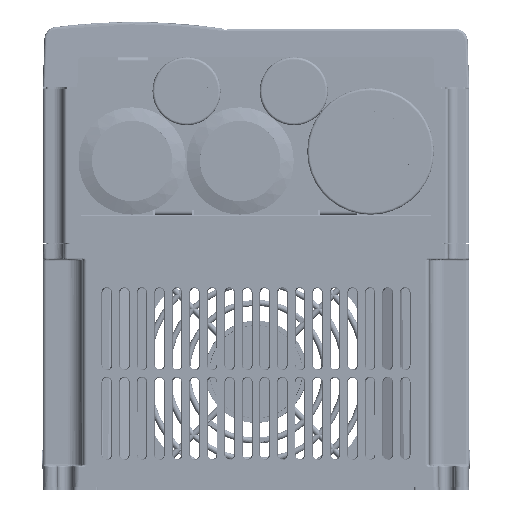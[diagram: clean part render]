
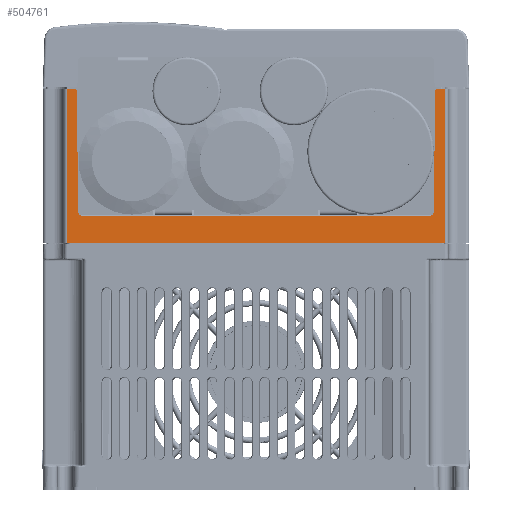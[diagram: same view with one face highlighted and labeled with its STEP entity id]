
A CAD part, front view. The second image highlights one B-rep face of the part: STEP entity #504761.
In plain terms, the highlighted planar face has unit normal (0, -1, 0).
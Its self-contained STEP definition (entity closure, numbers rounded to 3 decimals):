
#387255=CARTESIAN_POINT('',(873.448,-460.955,339.208));
#387256=VERTEX_POINT('',#387255);
#387263=CARTESIAN_POINT('',(875.447,-460.955,337.226));
#387264=VERTEX_POINT('',#387263);
#387265=CARTESIAN_POINT('',(875.447,-460.955,339.226));
#387266=DIRECTION('',(0.,-1.,0.0));
#387267=DIRECTION('',(0.704,0.,0.71));
#387268=AXIS2_PLACEMENT_3D('',#387265,#387266,#387267);
#387269=CIRCLE('',#387268,2.0);
#387270=EDGE_CURVE('',#387264,#387256,#387269,.F.);
#387286=CARTESIAN_POINT('',(873.017,-460.955,388.534));
#387287=VERTEX_POINT('',#387286);
#387288=CARTESIAN_POINT('',(872.017,-460.955,389.526));
#387289=VERTEX_POINT('',#387288);
#387290=CARTESIAN_POINT('',(872.017,-460.955,388.526));
#387291=DIRECTION('',(0.,1.,0.0));
#387292=DIRECTION('',(-0.704,0.,-0.71));
#387293=AXIS2_PLACEMENT_3D('',#387290,#387291,#387292);
#387294=CIRCLE('',#387293,1.0);
#387295=EDGE_CURVE('',#387287,#387289,#387294,.F.);
#387414=CARTESIAN_POINT('',(868.965,-460.955,389.526));
#387415=VERTEX_POINT('',#387414);
#387431=CARTESIAN_POINT('',(868.965,-460.955,326.226));
#387432=VERTEX_POINT('',#387431);
#387440=CARTESIAN_POINT('',(868.965,-460.955,326.226));
#387441=DIRECTION('',(0.0,0.0,1.0));
#387442=VECTOR('',#387441,63.3);
#387443=LINE('',#387440,#387442);
#387444=EDGE_CURVE('',#387432,#387415,#387443,.T.);
#387496=CARTESIAN_POINT('',(1023.965,-460.956,389.526));
#387497=VERTEX_POINT('',#387496);
#387507=CARTESIAN_POINT('',(1023.965,-460.956,326.226));
#387508=VERTEX_POINT('',#387507);
#387509=CARTESIAN_POINT('',(1023.965,-460.956,389.526));
#387510=DIRECTION('',(0.0,0.0,-1.0));
#387511=VECTOR('',#387510,63.3);
#387512=LINE('',#387509,#387511);
#387513=EDGE_CURVE('',#387497,#387508,#387512,.T.);
#387538=CARTESIAN_POINT('',(1019.482,-460.956,339.208));
#387539=VERTEX_POINT('',#387538);
#387540=CARTESIAN_POINT('',(1017.482,-460.956,337.226));
#387541=VERTEX_POINT('',#387540);
#387542=CARTESIAN_POINT('',(1017.482,-460.956,339.226));
#387543=DIRECTION('',(0.,1.,0.));
#387544=DIRECTION('',(-0.704,0.,0.71));
#387545=AXIS2_PLACEMENT_3D('',#387542,#387543,#387544);
#387546=CIRCLE('',#387545,2.0);
#387547=EDGE_CURVE('',#387539,#387541,#387546,.T.);
#387591=CARTESIAN_POINT('',(1019.913,-460.956,388.534));
#387592=VERTEX_POINT('',#387591);
#387599=CARTESIAN_POINT('',(1020.913,-460.956,389.526));
#387600=VERTEX_POINT('',#387599);
#387601=CARTESIAN_POINT('',(1020.913,-460.956,388.526));
#387602=DIRECTION('',(0.,1.,0.));
#387603=DIRECTION('',(0.704,0.,-0.71));
#387604=AXIS2_PLACEMENT_3D('',#387601,#387602,#387603);
#387605=CIRCLE('',#387604,1.0);
#387606=EDGE_CURVE('',#387600,#387592,#387605,.F.);
#464183=CARTESIAN_POINT('',(868.965,-460.955,389.526));
#464184=DIRECTION('',(1.,0.,0.0));
#464185=VECTOR('',#464184,3.052);
#464186=LINE('',#464183,#464185);
#464187=EDGE_CURVE('',#387415,#387289,#464186,.T.);
#464329=CARTESIAN_POINT('',(1020.913,-460.956,389.526));
#464330=DIRECTION('',(1.,0.,0.0));
#464331=VECTOR('',#464330,3.052);
#464332=LINE('',#464329,#464331);
#464333=EDGE_CURVE('',#387600,#387497,#464332,.T.);
#501019=CARTESIAN_POINT('',(1023.965,-460.956,326.226));
#501020=DIRECTION('',(-1.,0.,0.0));
#501021=VECTOR('',#501020,155.);
#501022=LINE('',#501019,#501021);
#501023=EDGE_CURVE('',#387508,#387432,#501022,.T.);
#504692=CARTESIAN_POINT('',(1019.913,-460.956,388.534));
#504693=DIRECTION('',(-0.009,0.,-1.));
#504694=VECTOR('',#504693,49.328);
#504695=LINE('',#504692,#504694);
#504696=EDGE_CURVE('',#387592,#387539,#504695,.T.);
#504732=CARTESIAN_POINT('',(861.215,-460.955,392.691));
#504733=DIRECTION('',(0.,-1.,0.0));
#504734=DIRECTION('',(0.0,0.0,-1.0));
#504735=AXIS2_PLACEMENT_3D('',#504732,#504733,#504734);
#504736=PLANE('',#504735);
#504737=ORIENTED_EDGE('',*,*,#504696,.T.);
#504738=ORIENTED_EDGE('',*,*,#387547,.T.);
#504739=CARTESIAN_POINT('',(1017.482,-460.956,337.226));
#504740=DIRECTION('',(-1.,0.,0.0));
#504741=VECTOR('',#504740,142.035);
#504742=LINE('',#504739,#504741);
#504743=EDGE_CURVE('',#387541,#387264,#504742,.T.);
#504744=ORIENTED_EDGE('',*,*,#504743,.T.);
#504745=ORIENTED_EDGE('',*,*,#387270,.T.);
#504746=CARTESIAN_POINT('',(873.017,-460.955,388.534));
#504747=DIRECTION('',(0.009,0.,-1.));
#504748=VECTOR('',#504747,49.328);
#504749=LINE('',#504746,#504748);
#504750=EDGE_CURVE('',#387287,#387256,#504749,.T.);
#504751=ORIENTED_EDGE('',*,*,#504750,.F.);
#504752=ORIENTED_EDGE('',*,*,#387295,.T.);
#504753=ORIENTED_EDGE('',*,*,#464187,.F.);
#504754=ORIENTED_EDGE('',*,*,#387444,.F.);
#504755=ORIENTED_EDGE('',*,*,#501023,.F.);
#504756=ORIENTED_EDGE('',*,*,#387513,.F.);
#504757=ORIENTED_EDGE('',*,*,#464333,.F.);
#504758=ORIENTED_EDGE('',*,*,#387606,.T.);
#504759=EDGE_LOOP('',(#504737,#504738,#504744,#504745,#504751,#504752,#504753,#504754,#504755,#504756,#504757,#504758));
#504760=FACE_OUTER_BOUND('',#504759,.T.);
#504761=ADVANCED_FACE('',(#504760),#504736,.T.);
